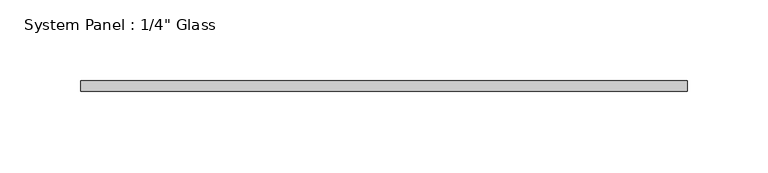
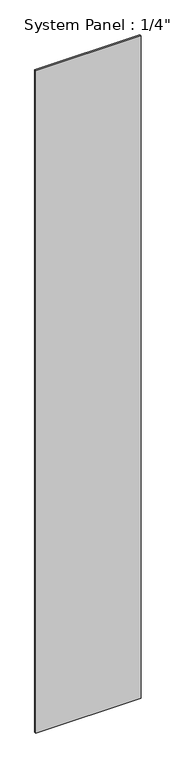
"""IFC4 building model written with IfcOpenShell, lengths in millimetres: plate geometry."""

from ifc_helpers import new_model, si_unit, origin, origin_with_axes, place, context, project, spatial, polyline, outline, extrude, source, transform, mapped, element, save


def plate_8062c6fe(model_context):
    return source(origin(), model_context, "Body", "SweptSolid", [
        extrude(outline(polyline([(187.2014107, -3.175), (-187.2014107, -3.175), (-187.2014107, 3.175), (187.2014107, 3.175), (187.2014107, -3.175)])), origin_with_axes(), (0.0, 0.0, 1.0), 2489.2),
    ])


if __name__ == "__main__":
    model = new_model("IFC4")
    model_context = context("Model", 3, world=origin())
    ifc_project = project(units=[si_unit("LENGTHUNIT", "METRE", prefix="MILLI")], contexts=[model_context])
    site = spatial("IfcSite", under=ifc_project)
    building = spatial("IfcBuilding", under=site)
    placement = place(None, origin())
    plate_shape = plate_8062c6fe(model_context)
    element("IfcPlate", 1, ObjectType="System Panel : 1/4\" Glass", at=placement, inside=building, context=model_context, shape_type="MappedRepresentation", body=[
        mapped(plate_shape, transform((0.0, 0.0, 0.0), x_axis=(1.0, 0.0, 0.0), y_axis=(0.0, 1.0, 0.0), z_axis=(0.0, 0.0, 1.0))),
    ])
    save(model, "model.ifc")
